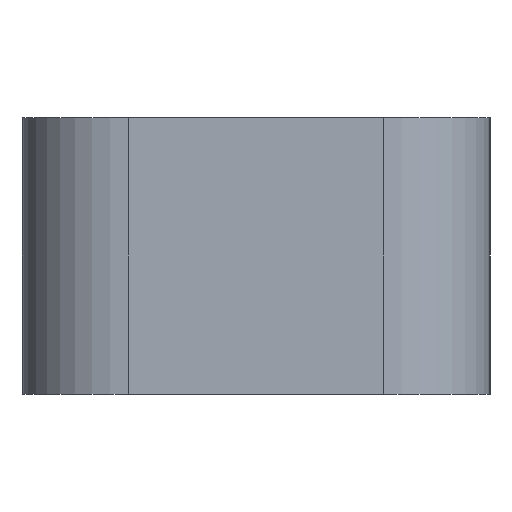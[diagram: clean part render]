
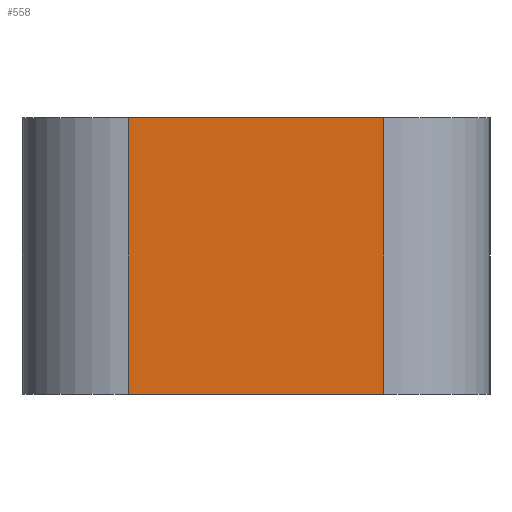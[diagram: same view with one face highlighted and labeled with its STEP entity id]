
A CAD part, left-side view. The second image highlights one B-rep face of the part: STEP entity #558.
In plain terms, the highlighted planar face has unit normal (-1, 0, 0).
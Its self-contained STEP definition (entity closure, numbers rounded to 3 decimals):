
#4 = VERTEX_POINT ( 'NONE', #42 ) ;
#17 = AXIS2_PLACEMENT_3D ( 'NONE', #974, #502, #346 ) ;
#20 = LINE ( 'NONE', #505, #445 ) ;
#26 = DIRECTION ( 'NONE',  ( 0., -1., 0. ) ) ;
#42 = CARTESIAN_POINT ( 'NONE',  ( -48., -6., 6.5 ) ) ;
#112 = VECTOR ( 'NONE', #162, 1000. ) ;
#131 = EDGE_CURVE ( 'NONE', #524, #4, #362, .T. ) ;
#162 = DIRECTION ( 'NONE',  ( 0., 0., -1. ) ) ;
#229 = LINE ( 'NONE', #1143, #813 ) ;
#280 = EDGE_CURVE ( 'NONE', #568, #463, #229, .T. ) ;
#289 = CARTESIAN_POINT ( 'NONE',  ( -48., -6., -6.5 ) ) ;
#297 = CARTESIAN_POINT ( 'NONE',  ( -48., 11., 6.5 ) ) ;
#320 = EDGE_LOOP ( 'NONE', ( #458, #487, #845, #1105 ) ) ;
#339 = DIRECTION ( 'NONE',  ( 0., -1., 0. ) ) ;
#346 = DIRECTION ( 'NONE',  ( 0., 0., -1. ) ) ;
#362 = LINE ( 'NONE', #297, #934 ) ;
#387 = CARTESIAN_POINT ( 'NONE',  ( -48., 6., 6.5 ) ) ;
#445 = VECTOR ( 'NONE', #471, 1000. ) ;
#458 = ORIENTED_EDGE ( 'NONE', *, *, #280, .T. ) ;
#463 = VERTEX_POINT ( 'NONE', #289 ) ;
#471 = DIRECTION ( 'NONE',  ( 0., 0., 1. ) ) ;
#473 = LINE ( 'NONE', #1160, #112 ) ;
#487 = ORIENTED_EDGE ( 'NONE', *, *, #1092, .T. ) ;
#502 = DIRECTION ( 'NONE',  ( 1., 0., 0. ) ) ;
#505 = CARTESIAN_POINT ( 'NONE',  ( -48., -6., 6.5 ) ) ;
#524 = VERTEX_POINT ( 'NONE', #387 ) ;
#558 = ADVANCED_FACE ( 'NONE', ( #683 ), #765, .F. ) ;
#568 = VERTEX_POINT ( 'NONE', #835 ) ;
#683 = FACE_OUTER_BOUND ( 'NONE', #320, .T. ) ;
#765 = PLANE ( 'NONE',  #17 ) ;
#813 = VECTOR ( 'NONE', #26, 1000. ) ;
#835 = CARTESIAN_POINT ( 'NONE',  ( -48., 6., -6.5 ) ) ;
#845 = ORIENTED_EDGE ( 'NONE', *, *, #131, .F. ) ;
#934 = VECTOR ( 'NONE', #339, 1000. ) ;
#969 = EDGE_CURVE ( 'NONE', #524, #568, #473, .T. ) ;
#974 = CARTESIAN_POINT ( 'NONE',  ( -48., 11., 6.5 ) ) ;
#1092 = EDGE_CURVE ( 'NONE', #463, #4, #20, .T. ) ;
#1105 = ORIENTED_EDGE ( 'NONE', *, *, #969, .T. ) ;
#1143 = CARTESIAN_POINT ( 'NONE',  ( -48., 11., -6.5 ) ) ;
#1160 = CARTESIAN_POINT ( 'NONE',  ( -48., 6., 6.5 ) ) ;
